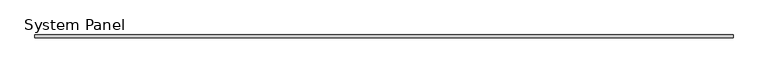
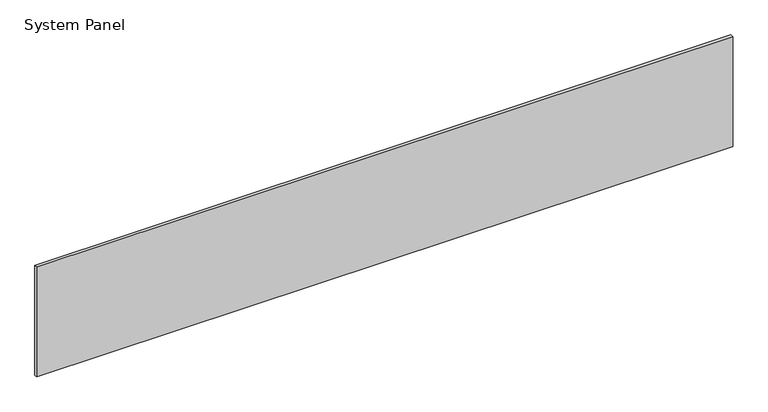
"""IFC4 building model written with IfcOpenShell, lengths in millimetres: plate geometry, System Panel : Purline 25mm Horizontal - Plain RHEA - PUR."""

from ifc_helpers import new_model, si_unit, origin, origin_with_axes, place, context, project, spatial, polyline, outline, extrude, source, transform, mapped, element, save


def system_panel_62c5c3ff(model_context):
    return source(origin(), model_context, "Body", "SweptSolid", [
        extrude(outline(polyline([(2995.0, 0.0), (-2995.0, 0.0), (-2995.0, 25.0), (2995.0, 25.0), (2995.0, 0.0)])), origin_with_axes(), (0.0, 0.0, 1.0), 1000.0),
    ])


if __name__ == "__main__":
    model = new_model("IFC4")
    model_context = context("Model", 3, world=origin())
    ifc_project = project(units=[si_unit("LENGTHUNIT", "METRE", prefix="MILLI")], contexts=[model_context])
    site = spatial("IfcSite", under=ifc_project)
    building = spatial("IfcBuilding", under=site)
    placement = place(None, origin())
    system_panel_shape = system_panel_62c5c3ff(model_context)
    element("IfcPlate", 1, ObjectType="System Panel : Purline 25mm Horizontal - Plain RHEA - PUR", at=placement, inside=building, context=model_context, shape_type="MappedRepresentation", body=[
        mapped(system_panel_shape, transform((0.0, 0.0, 0.0), x_axis=(1.0, 0.0, 0.0), y_axis=(0.0, 1.0, 0.0), z_axis=(0.0, 0.0, 1.0))),
    ])
    save(model, "model.ifc")
